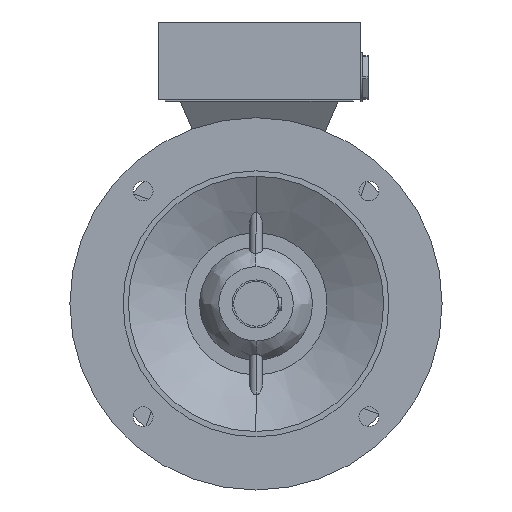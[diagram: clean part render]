
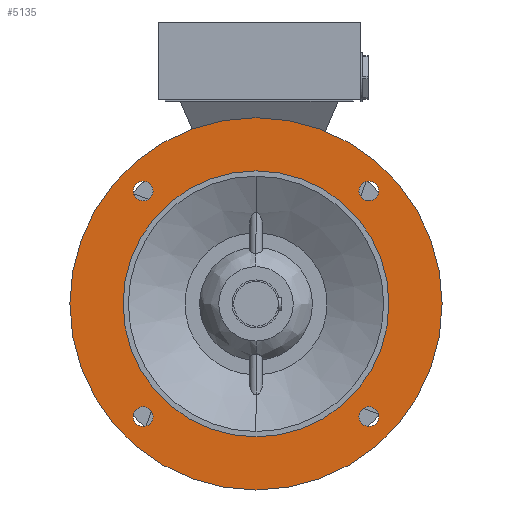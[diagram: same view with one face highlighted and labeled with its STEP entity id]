
A CAD part, left-side view. The second image highlights one B-rep face of the part: STEP entity #5135.
In plain terms, the highlighted planar face has unit normal (-1, 0, 0).
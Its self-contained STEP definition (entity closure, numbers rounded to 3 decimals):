
#122 = FACE_BOUND ( 'NONE', #21571, .T. ) ;
#129 = FACE_BOUND ( 'NONE', #21577, .T. ) ;
#139 = FACE_BOUND ( 'NONE', #21579, .T. ) ;
#141 = FACE_BOUND ( 'NONE', #21580, .T. ) ;
#144 = FACE_OUTER_BOUND ( 'NONE', #21581, .T. ) ;
#146 = FACE_BOUND ( 'NONE', #21582, .T. ) ;
#795 = EDGE_CURVE ( 'NONE', #11721, #11718, #29970, .T. ) ;
#866 = EDGE_CURVE ( 'NONE', #11710, #11713, #30077, .T. ) ;
#868 = EDGE_CURVE ( 'NONE', #11718, #11721, #30084, .T. ) ;
#873 = EDGE_CURVE ( 'NONE', #11714, #11717, #30083, .T. ) ;
#878 = EDGE_CURVE ( 'NONE', #21433, #21434, #30098, .T. ) ;
#882 = EDGE_CURVE ( 'NONE', #11722, #21432, #30105, .T. ) ;
#888 = EDGE_CURVE ( 'NONE', #21469, #21441, #30114, .T. ) ;
#3055 = CARTESIAN_POINT ( 'NONE',  ( -80., 106.066, -106.066 ) ) ;
#3056 = DIRECTION ( 'NONE',  ( 1., 0., 0. ) ) ;
#3057 = DIRECTION ( 'NONE',  ( 0., 0., -1. ) ) ;
#5135 = ADVANCED_FACE ( 'NONE', ( #141, #144, #139, #129, #122, #146 ), #14282, .T. ) ;
#5851 = CARTESIAN_POINT ( 'NONE',  ( -80., -106.066, 115.316 ) ) ;
#5859 = CARTESIAN_POINT ( 'NONE',  ( -80., 106.066, 115.316 ) ) ;
#5860 = CARTESIAN_POINT ( 'NONE',  ( -80., 0., 175. ) ) ;
#5861 = CARTESIAN_POINT ( 'NONE',  ( -80., 0., -175. ) ) ;
#5894 = CARTESIAN_POINT ( 'NONE',  ( -80., -106.066, 96.816 ) ) ;
#6944 = AXIS2_PLACEMENT_3D ( 'NONE', #14288, #14284, #14289 ) ;
#10952 = AXIS2_PLACEMENT_3D ( 'NONE', #3055, #3056, #3057 ) ;
#10969 = AXIS2_PLACEMENT_3D ( 'NONE', #28324, #28325, #28326 ) ;
#10970 = AXIS2_PLACEMENT_3D ( 'NONE', #28329, #28330, #28331 ) ;
#10971 = AXIS2_PLACEMENT_3D ( 'NONE', #28344, #28345, #28346 ) ;
#10972 = AXIS2_PLACEMENT_3D ( 'NONE', #28356, #28357, #28358 ) ;
#10973 = AXIS2_PLACEMENT_3D ( 'NONE', #28366, #28367, #28368 ) ;
#10974 = AXIS2_PLACEMENT_3D ( 'NONE', #16178, #16179, #16180 ) ;
#11710 = VERTEX_POINT ( 'NONE', #16799 ) ;
#11713 = VERTEX_POINT ( 'NONE', #16802 ) ;
#11714 = VERTEX_POINT ( 'NONE', #16803 ) ;
#11717 = VERTEX_POINT ( 'NONE', #16806 ) ;
#11718 = VERTEX_POINT ( 'NONE', #16807 ) ;
#11721 = VERTEX_POINT ( 'NONE', #16810 ) ;
#11722 = VERTEX_POINT ( 'NONE', #16811 ) ;
#14282 = PLANE ( 'NONE',  #6944 ) ;
#14284 = DIRECTION ( 'NONE',  ( -1., 0., 0. ) ) ;
#14288 = CARTESIAN_POINT ( 'NONE',  ( -80., 150., 0. ) ) ;
#14289 = DIRECTION ( 'NONE',  ( 0., 0., 1. ) ) ;
#16178 = CARTESIAN_POINT ( 'NONE',  ( -80., -106.066, 106.066 ) ) ;
#16179 = DIRECTION ( 'NONE',  ( 1., 0., 0. ) ) ;
#16180 = DIRECTION ( 'NONE',  ( 0., 0., -1. ) ) ;
#16799 = CARTESIAN_POINT ( 'NONE',  ( -80., 0., 125. ) ) ;
#16802 = CARTESIAN_POINT ( 'NONE',  ( -80., 0., -125. ) ) ;
#16803 = CARTESIAN_POINT ( 'NONE',  ( -80., -106.066, -115.316 ) ) ;
#16806 = CARTESIAN_POINT ( 'NONE',  ( -80., -106.066, -96.816 ) ) ;
#16807 = CARTESIAN_POINT ( 'NONE',  ( -80., 106.066, -115.316 ) ) ;
#16810 = CARTESIAN_POINT ( 'NONE',  ( -80., 106.066, -96.816 ) ) ;
#16811 = CARTESIAN_POINT ( 'NONE',  ( -80., 106.066, 96.816 ) ) ;
#20364 = EDGE_CURVE ( 'NONE', #11717, #11714, #26095, .T. ) ;
#20365 = EDGE_CURVE ( 'NONE', #21434, #21433, #26096, .T. ) ;
#20376 = EDGE_CURVE ( 'NONE', #21441, #21469, #26103, .T. ) ;
#20382 = EDGE_CURVE ( 'NONE', #11713, #11710, #26107, .T. ) ;
#20383 = EDGE_CURVE ( 'NONE', #21432, #11722, #26111, .T. ) ;
#21432 = VERTEX_POINT ( 'NONE', #5859 ) ;
#21433 = VERTEX_POINT ( 'NONE', #5860 ) ;
#21434 = VERTEX_POINT ( 'NONE', #5861 ) ;
#21441 = VERTEX_POINT ( 'NONE', #5851 ) ;
#21469 = VERTEX_POINT ( 'NONE', #5894 ) ;
#21571 = EDGE_LOOP ( 'NONE', ( #27759, #27760 ) ) ;
#21577 = EDGE_LOOP ( 'NONE', ( #27757, #27758 ) ) ;
#21579 = EDGE_LOOP ( 'NONE', ( #27755, #27756 ) ) ;
#21580 = EDGE_LOOP ( 'NONE', ( #27751, #27752 ) ) ;
#21581 = EDGE_LOOP ( 'NONE', ( #27753, #27754 ) ) ;
#21582 = EDGE_LOOP ( 'NONE', ( #27761, #27762 ) ) ;
#25246 = AXIS2_PLACEMENT_3D ( 'NONE', #29227, #29228, #29229 ) ;
#25247 = AXIS2_PLACEMENT_3D ( 'NONE', #29231, #29232, #29233 ) ;
#25252 = AXIS2_PLACEMENT_3D ( 'NONE', #29264, #29265, #29266 ) ;
#25257 = AXIS2_PLACEMENT_3D ( 'NONE', #29285, #29286, #29287 ) ;
#25258 = AXIS2_PLACEMENT_3D ( 'NONE', #29289, #29290, #29291 ) ;
#26095 = CIRCLE ( 'NONE', #25246, 9.25 ) ;
#26096 = CIRCLE ( 'NONE', #25247, 175. ) ;
#26103 = CIRCLE ( 'NONE', #25252, 9.25 ) ;
#26107 = CIRCLE ( 'NONE', #25257, 125. ) ;
#26111 = CIRCLE ( 'NONE', #25258, 9.25 ) ;
#27751 = ORIENTED_EDGE ( 'NONE', *, *, #866, .T. ) ;
#27752 = ORIENTED_EDGE ( 'NONE', *, *, #20382, .T. ) ;
#27753 = ORIENTED_EDGE ( 'NONE', *, *, #878, .F. ) ;
#27754 = ORIENTED_EDGE ( 'NONE', *, *, #20365, .F. ) ;
#27755 = ORIENTED_EDGE ( 'NONE', *, *, #888, .T. ) ;
#27756 = ORIENTED_EDGE ( 'NONE', *, *, #20376, .T. ) ;
#27757 = ORIENTED_EDGE ( 'NONE', *, *, #882, .T. ) ;
#27758 = ORIENTED_EDGE ( 'NONE', *, *, #20383, .T. ) ;
#27759 = ORIENTED_EDGE ( 'NONE', *, *, #868, .T. ) ;
#27760 = ORIENTED_EDGE ( 'NONE', *, *, #795, .T. ) ;
#27761 = ORIENTED_EDGE ( 'NONE', *, *, #873, .T. ) ;
#27762 = ORIENTED_EDGE ( 'NONE', *, *, #20364, .T. ) ;
#28324 = CARTESIAN_POINT ( 'NONE',  ( -80., 0., 0. ) ) ;
#28325 = DIRECTION ( 'NONE',  ( 1., 0., 0. ) ) ;
#28326 = DIRECTION ( 'NONE',  ( 0., 0., 1. ) ) ;
#28329 = CARTESIAN_POINT ( 'NONE',  ( -80., 106.066, -106.066 ) ) ;
#28330 = DIRECTION ( 'NONE',  ( 1., 0., 0. ) ) ;
#28331 = DIRECTION ( 'NONE',  ( 0., 0., -1. ) ) ;
#28344 = CARTESIAN_POINT ( 'NONE',  ( -80., -106.066, -106.066 ) ) ;
#28345 = DIRECTION ( 'NONE',  ( 1., 0., 0. ) ) ;
#28346 = DIRECTION ( 'NONE',  ( 0., 0., -1. ) ) ;
#28356 = CARTESIAN_POINT ( 'NONE',  ( -80., 0., 0. ) ) ;
#28357 = DIRECTION ( 'NONE',  ( 1., 0., 0. ) ) ;
#28358 = DIRECTION ( 'NONE',  ( 0., 0., 1. ) ) ;
#28366 = CARTESIAN_POINT ( 'NONE',  ( -80., 106.066, 106.066 ) ) ;
#28367 = DIRECTION ( 'NONE',  ( 1., 0., 0. ) ) ;
#28368 = DIRECTION ( 'NONE',  ( 0., 0., -1. ) ) ;
#29227 = CARTESIAN_POINT ( 'NONE',  ( -80., -106.066, -106.066 ) ) ;
#29228 = DIRECTION ( 'NONE',  ( 1., 0., 0. ) ) ;
#29229 = DIRECTION ( 'NONE',  ( 0., 0., -1. ) ) ;
#29231 = CARTESIAN_POINT ( 'NONE',  ( -80., 0., 0. ) ) ;
#29232 = DIRECTION ( 'NONE',  ( 1., 0., 0. ) ) ;
#29233 = DIRECTION ( 'NONE',  ( 0., 0., 1. ) ) ;
#29264 = CARTESIAN_POINT ( 'NONE',  ( -80., -106.066, 106.066 ) ) ;
#29265 = DIRECTION ( 'NONE',  ( 1., 0., 0. ) ) ;
#29266 = DIRECTION ( 'NONE',  ( 0., 0., -1. ) ) ;
#29285 = CARTESIAN_POINT ( 'NONE',  ( -80., 0., 0. ) ) ;
#29286 = DIRECTION ( 'NONE',  ( 1., 0., 0. ) ) ;
#29287 = DIRECTION ( 'NONE',  ( 0., 0., 1. ) ) ;
#29289 = CARTESIAN_POINT ( 'NONE',  ( -80., 106.066, 106.066 ) ) ;
#29290 = DIRECTION ( 'NONE',  ( 1., 0., 0. ) ) ;
#29291 = DIRECTION ( 'NONE',  ( 0., 0., -1. ) ) ;
#29970 = CIRCLE ( 'NONE', #10952, 9.25 ) ;
#30077 = CIRCLE ( 'NONE', #10969, 125. ) ;
#30083 = CIRCLE ( 'NONE', #10971, 9.25 ) ;
#30084 = CIRCLE ( 'NONE', #10970, 9.25 ) ;
#30098 = CIRCLE ( 'NONE', #10972, 175. ) ;
#30105 = CIRCLE ( 'NONE', #10973, 9.25 ) ;
#30114 = CIRCLE ( 'NONE', #10974, 9.25 ) ;
